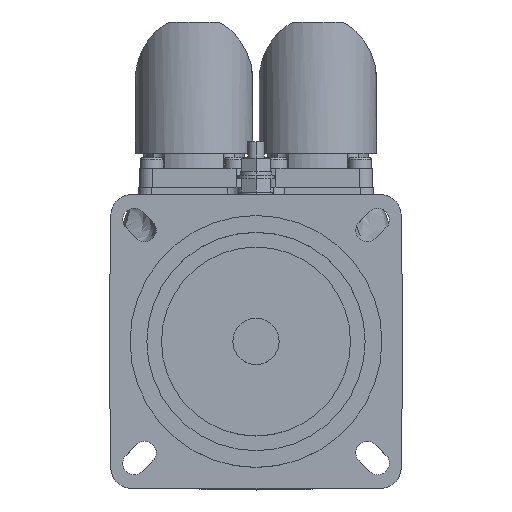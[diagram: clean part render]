
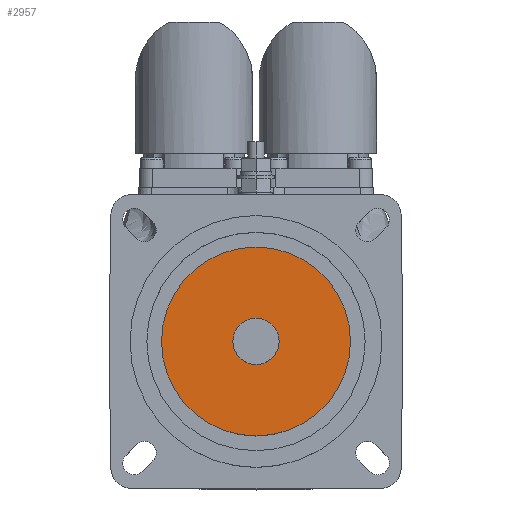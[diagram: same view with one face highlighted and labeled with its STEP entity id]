
A CAD part, top view. The second image highlights one B-rep face of the part: STEP entity #2957.
In plain terms, the highlighted planar face has unit normal (0, 0, 1).
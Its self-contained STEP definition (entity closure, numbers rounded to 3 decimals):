
#2810 = EDGE_LOOP ( 'NONE', ( #3576, #3577 ) ) ;
#2817 = EDGE_LOOP ( 'NONE', ( #3578, #3579 ) ) ;
#2957 = ADVANCED_FACE ( 'NONE', ( #4299, #4303 ), #9121, .T. ) ;
#3576 = ORIENTED_EDGE ( 'NONE', *, *, #6328, .F. ) ;
#3577 = ORIENTED_EDGE ( 'NONE', *, *, #6750, .F. ) ;
#3578 = ORIENTED_EDGE ( 'NONE', *, *, #6334, .T. ) ;
#3579 = ORIENTED_EDGE ( 'NONE', *, *, #6752, .T. ) ;
#4299 = FACE_BOUND ( 'NONE', #2810, .T. ) ;
#4303 = FACE_OUTER_BOUND ( 'NONE', #2817, .T. ) ;
#5126 = CIRCLE ( 'NONE', #5694, 5.5 ) ;
#5136 = CIRCLE ( 'NONE', #5698, 22.5 ) ;
#5329 = AXIS2_PLACEMENT_3D ( 'NONE', #9120, #9122, #9123 ) ;
#5694 = AXIS2_PLACEMENT_3D ( 'NONE', #10778, #10785, #10786 ) ;
#5698 = AXIS2_PLACEMENT_3D ( 'NONE', #10801, #10802, #10803 ) ;
#5840 = AXIS2_PLACEMENT_3D ( 'NONE', #13639, #13640, #13641 ) ;
#5842 = AXIS2_PLACEMENT_3D ( 'NONE', #13645, #13646, #13647 ) ;
#6328 = EDGE_CURVE ( 'NONE', #14114, #14115, #5126, .T. ) ;
#6334 = EDGE_CURVE ( 'NONE', #14129, #14128, #5136, .T. ) ;
#6750 = EDGE_CURVE ( 'NONE', #14115, #14114, #11720, .T. ) ;
#6752 = EDGE_CURVE ( 'NONE', #14128, #14129, #11724, .T. ) ;
#9120 = CARTESIAN_POINT ( 'NONE',  ( 0., 22.5, 7.5 ) ) ;
#9121 = PLANE ( 'NONE',  #5329 ) ;
#9122 = DIRECTION ( 'NONE',  ( 0., 0., 1. ) ) ;
#9123 = DIRECTION ( 'NONE',  ( 1., 0., 0. ) ) ;
#10778 = CARTESIAN_POINT ( 'NONE',  ( 0., 0., 7.5 ) ) ;
#10785 = DIRECTION ( 'NONE',  ( 0., 0., 1. ) ) ;
#10786 = DIRECTION ( 'NONE',  ( 1., 0., 0. ) ) ;
#10801 = CARTESIAN_POINT ( 'NONE',  ( 0., 0., 7.5 ) ) ;
#10802 = DIRECTION ( 'NONE',  ( 0., 0., 1. ) ) ;
#10803 = DIRECTION ( 'NONE',  ( 1., 0., 0. ) ) ;
#11720 = CIRCLE ( 'NONE', #5840, 5.5 ) ;
#11724 = CIRCLE ( 'NONE', #5842, 22.5 ) ;
#13639 = CARTESIAN_POINT ( 'NONE',  ( 0., 0., 7.5 ) ) ;
#13640 = DIRECTION ( 'NONE',  ( 0., 0., 1. ) ) ;
#13641 = DIRECTION ( 'NONE',  ( 1., 0., 0. ) ) ;
#13645 = CARTESIAN_POINT ( 'NONE',  ( 0., 0., 7.5 ) ) ;
#13646 = DIRECTION ( 'NONE',  ( 0., 0., 1. ) ) ;
#13647 = DIRECTION ( 'NONE',  ( 1., 0., 0. ) ) ;
#14114 = VERTEX_POINT ( 'NONE', #16236 ) ;
#14115 = VERTEX_POINT ( 'NONE', #16237 ) ;
#14128 = VERTEX_POINT ( 'NONE', #16250 ) ;
#14129 = VERTEX_POINT ( 'NONE', #16251 ) ;
#16236 = CARTESIAN_POINT ( 'NONE',  ( 5.5, 0., 7.5 ) ) ;
#16237 = CARTESIAN_POINT ( 'NONE',  ( -5.5, 0., 7.5 ) ) ;
#16250 = CARTESIAN_POINT ( 'NONE',  ( -22.5, 0., 7.5 ) ) ;
#16251 = CARTESIAN_POINT ( 'NONE',  ( 22.5, 0., 7.5 ) ) ;
